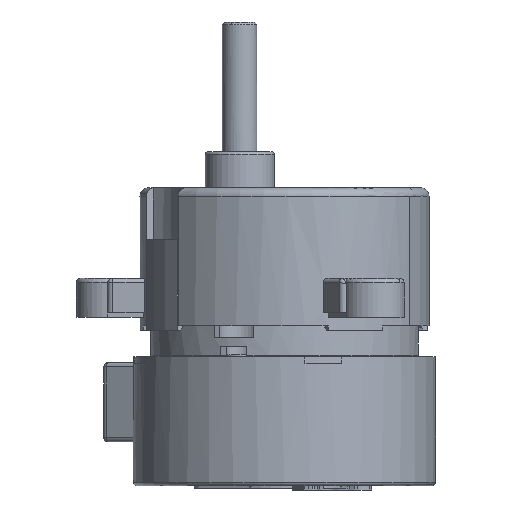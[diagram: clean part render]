
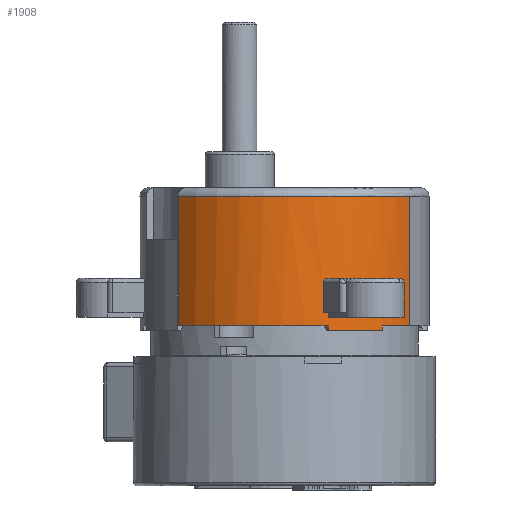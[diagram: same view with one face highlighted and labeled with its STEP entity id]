
A CAD part, front view. The second image highlights one B-rep face of the part: STEP entity #1908.
In plain terms, the highlighted cylindrical face has radius 16.75 mm (diameter 33.5 mm), a partial arc.
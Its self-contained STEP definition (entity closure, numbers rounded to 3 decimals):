
#710=CARTESIAN_POINT('',(5.062,-15.967,20.933));
#711=VERTEX_POINT('',#710);
#720=CARTESIAN_POINT('',(-12.332,-11.335,20.933));
#721=VERTEX_POINT('',#720);
#722=CARTESIAN_POINT('',(0.,-0.,20.933));
#723=DIRECTION('',(-0.,-0.,1.));
#724=DIRECTION('',(-1.,0.,0.));
#725=AXIS2_PLACEMENT_3D('',#722,#723,#724);
#726=CIRCLE('',#725,16.75);
#727=EDGE_CURVE('',#721,#711,#726,.T.);
#876=CARTESIAN_POINT('',(-12.332,-11.335,35.933));
#877=VERTEX_POINT('',#876);
#900=CARTESIAN_POINT('',(14.506,-8.375,35.933));
#901=VERTEX_POINT('',#900);
#902=CARTESIAN_POINT('',(0.,-0.,35.933));
#903=DIRECTION('',(0.,0.,-1.));
#904=DIRECTION('',(-1.,0.,0.));
#905=AXIS2_PLACEMENT_3D('',#902,#903,#904);
#906=CIRCLE('',#905,16.75);
#907=EDGE_CURVE('',#901,#877,#906,.T.);
#1727=CARTESIAN_POINT('',(11.297,-12.367,20.933));
#1728=VERTEX_POINT('',#1727);
#1744=CARTESIAN_POINT('',(14.506,-8.375,20.933));
#1745=VERTEX_POINT('',#1744);
#1753=CARTESIAN_POINT('',(0.,-0.,20.933));
#1754=DIRECTION('',(-0.,-0.,1.));
#1755=DIRECTION('',(-1.,0.,0.));
#1756=AXIS2_PLACEMENT_3D('',#1753,#1754,#1755);
#1757=CIRCLE('',#1756,16.75);
#1758=EDGE_CURVE('',#1728,#1745,#1757,.T.);
#1763=CARTESIAN_POINT('',(0.,-0.,36.933));
#1764=DIRECTION('',(0.,0.,-1.));
#1765=DIRECTION('',(0.866,-0.5,0.));
#1766=AXIS2_PLACEMENT_3D('',#1763,#1764,#1765);
#1767=CYLINDRICAL_SURFACE('',#1766,16.75);
#1768=CARTESIAN_POINT('',(14.506,-8.375,20.933));
#1769=DIRECTION('',(-0.,-0.,1.));
#1770=VECTOR('',#1769,15.);
#1771=LINE('',#1768,#1770);
#1772=EDGE_CURVE('',#1745,#901,#1771,.T.);
#1773=ORIENTED_EDGE('',*,*,#1772,.T.);
#1774=ORIENTED_EDGE('',*,*,#907,.T.);
#1775=CARTESIAN_POINT('',(-12.332,-11.335,20.933));
#1776=DIRECTION('',(-0.,-0.,1.));
#1777=VECTOR('',#1776,15.);
#1778=LINE('',#1775,#1777);
#1779=EDGE_CURVE('',#721,#877,#1778,.T.);
#1780=ORIENTED_EDGE('',*,*,#1779,.F.);
#1781=ORIENTED_EDGE('',*,*,#727,.T.);
#1782=CARTESIAN_POINT('',(5.062,-15.967,20.433));
#1783=VERTEX_POINT('',#1782);
#1784=CARTESIAN_POINT('',(5.062,-15.967,20.433));
#1785=DIRECTION('',(-0.,-0.,1.));
#1786=VECTOR('',#1785,0.5);
#1787=LINE('',#1784,#1786);
#1788=EDGE_CURVE('',#1783,#711,#1787,.T.);
#1789=ORIENTED_EDGE('',*,*,#1788,.F.);
#1790=CARTESIAN_POINT('',(11.297,-12.367,20.433));
#1791=VERTEX_POINT('',#1790);
#1792=CARTESIAN_POINT('',(0.,-0.,20.433));
#1793=DIRECTION('',(0.,0.,-1.));
#1794=DIRECTION('',(-1.,0.,0.));
#1795=AXIS2_PLACEMENT_3D('',#1792,#1793,#1794);
#1796=CIRCLE('',#1795,16.75);
#1797=EDGE_CURVE('',#1791,#1783,#1796,.T.);
#1798=ORIENTED_EDGE('',*,*,#1797,.F.);
#1799=CARTESIAN_POINT('',(11.297,-12.367,20.433));
#1800=DIRECTION('',(-0.,-0.,1.));
#1801=VECTOR('',#1800,0.5);
#1802=LINE('',#1799,#1801);
#1803=EDGE_CURVE('',#1791,#1728,#1802,.T.);
#1804=ORIENTED_EDGE('',*,*,#1803,.T.);
#1805=ORIENTED_EDGE('',*,*,#1758,.T.);
#1806=EDGE_LOOP('',(#1773,#1774,#1780,#1781,#1789,#1798,#1804,#1805));
#1807=FACE_BOUND('',#1806,.T.);
#1808=CARTESIAN_POINT('',(11.297,-12.367,22.433));
#1809=VERTEX_POINT('',#1808);
#1810=CARTESIAN_POINT('',(11.745,-11.943,22.433));
#1811=VERTEX_POINT('',#1810);
#1812=CARTESIAN_POINT('',(0.,-0.,22.433));
#1813=DIRECTION('',(-0.,-0.,1.));
#1814=DIRECTION('',(-1.,0.,0.));
#1815=AXIS2_PLACEMENT_3D('',#1812,#1813,#1814);
#1816=CIRCLE('',#1815,16.75);
#1817=EDGE_CURVE('',#1809,#1811,#1816,.T.);
#1818=ORIENTED_EDGE('',*,*,#1817,.F.);
#1819=CARTESIAN_POINT('',(11.297,-12.367,21.933));
#1820=VERTEX_POINT('',#1819);
#1821=CARTESIAN_POINT('',(11.297,-12.367,22.433));
#1822=DIRECTION('',(0.,0.,-1.));
#1823=VECTOR('',#1822,0.5);
#1824=LINE('',#1821,#1823);
#1825=EDGE_CURVE('',#1809,#1820,#1824,.T.);
#1826=ORIENTED_EDGE('',*,*,#1825,.T.);
#1827=CARTESIAN_POINT('',(5.062,-15.967,21.933));
#1828=VERTEX_POINT('',#1827);
#1829=CARTESIAN_POINT('',(0.,-0.,21.933));
#1830=DIRECTION('',(-0.,-0.,1.));
#1831=DIRECTION('',(-1.,0.,0.));
#1832=AXIS2_PLACEMENT_3D('',#1829,#1830,#1831);
#1833=CIRCLE('',#1832,16.75);
#1834=EDGE_CURVE('',#1828,#1820,#1833,.T.);
#1835=ORIENTED_EDGE('',*,*,#1834,.F.);
#1836=CARTESIAN_POINT('',(5.062,-15.967,22.433));
#1837=VERTEX_POINT('',#1836);
#1838=CARTESIAN_POINT('',(5.062,-15.967,22.433));
#1839=DIRECTION('',(0.,0.,-1.));
#1840=VECTOR('',#1839,0.5);
#1841=LINE('',#1838,#1840);
#1842=EDGE_CURVE('',#1837,#1828,#1841,.T.);
#1843=ORIENTED_EDGE('',*,*,#1842,.F.);
#1844=CARTESIAN_POINT('',(4.47,-16.143,22.433));
#1845=VERTEX_POINT('',#1844);
#1846=CARTESIAN_POINT('',(0.,-0.,22.433));
#1847=DIRECTION('',(-0.,-0.,1.));
#1848=DIRECTION('',(-1.,0.,0.));
#1849=AXIS2_PLACEMENT_3D('',#1846,#1847,#1848);
#1850=CIRCLE('',#1849,16.75);
#1851=EDGE_CURVE('',#1845,#1837,#1850,.T.);
#1852=ORIENTED_EDGE('',*,*,#1851,.F.);
#1853=CARTESIAN_POINT('',(4.47,-16.143,25.933));
#1854=VERTEX_POINT('',#1853);
#1855=CARTESIAN_POINT('',(4.47,-16.143,25.933));
#1856=DIRECTION('',(-0.,-0.,-1.));
#1857=VECTOR('',#1856,3.5);
#1858=LINE('',#1855,#1857);
#1859=EDGE_CURVE('',#1854,#1845,#1858,.T.);
#1860=ORIENTED_EDGE('',*,*,#1859,.F.);
#1861=CARTESIAN_POINT('',(4.964,-15.998,26.433));
#1862=VERTEX_POINT('',#1861);
#1863=CARTESIAN_POINT('',(4.47,-16.143,25.933));
#1864=CARTESIAN_POINT('',(4.47,-16.143,26.));
#1865=CARTESIAN_POINT('',(4.484,-16.139,26.066));
#1866=CARTESIAN_POINT('',(4.509,-16.132,26.127));
#1867=CARTESIAN_POINT('',(4.534,-16.125,26.188));
#1868=CARTESIAN_POINT('',(4.572,-16.114,26.243));
#1869=CARTESIAN_POINT('',(4.618,-16.101,26.289));
#1870=CARTESIAN_POINT('',(4.71,-16.075,26.381));
#1871=CARTESIAN_POINT('',(4.836,-16.037,26.433));
#1872=CARTESIAN_POINT('',(4.964,-15.998,26.433));
#1873=B_SPLINE_CURVE_WITH_KNOTS('',3,(#1863,#1864,#1865,#1866,#1867,#1868,#1869,#1870,#1871,#1872),.UNSPECIFIED.,.F.,.F.,(4,3,3,4),(0.,0.,0.,0.001),.UNSPECIFIED.);
#1874=EDGE_CURVE('',#1854,#1862,#1873,.T.);
#1875=ORIENTED_EDGE('',*,*,#1874,.T.);
#1876=CARTESIAN_POINT('',(11.372,-12.298,26.433));
#1877=VERTEX_POINT('',#1876);
#1878=CARTESIAN_POINT('',(0.,-0.,26.433));
#1879=DIRECTION('',(0.,0.,-1.));
#1880=DIRECTION('',(-1.,0.,0.));
#1881=AXIS2_PLACEMENT_3D('',#1878,#1879,#1880);
#1882=CIRCLE('',#1881,16.75);
#1883=EDGE_CURVE('',#1877,#1862,#1882,.T.);
#1884=ORIENTED_EDGE('',*,*,#1883,.F.);
#1885=CARTESIAN_POINT('',(11.745,-11.943,25.933));
#1886=VERTEX_POINT('',#1885);
#1887=CARTESIAN_POINT('',(11.372,-12.298,26.433));
#1888=CARTESIAN_POINT('',(11.422,-12.252,26.433));
#1889=CARTESIAN_POINT('',(11.469,-12.207,26.421));
#1890=CARTESIAN_POINT('',(11.514,-12.165,26.396));
#1891=CARTESIAN_POINT('',(11.559,-12.122,26.371));
#1892=CARTESIAN_POINT('',(11.6,-12.083,26.335));
#1893=CARTESIAN_POINT('',(11.635,-12.05,26.289));
#1894=CARTESIAN_POINT('',(11.704,-11.983,26.198));
#1895=CARTESIAN_POINT('',(11.745,-11.943,26.067));
#1896=CARTESIAN_POINT('',(11.745,-11.943,25.933));
#1897=B_SPLINE_CURVE_WITH_KNOTS('',3,(#1887,#1888,#1889,#1890,#1891,#1892,#1893,#1894,#1895,#1896),.UNSPECIFIED.,.F.,.F.,(4,3,3,4),(0.,0.,0.,0.001),.UNSPECIFIED.);
#1898=EDGE_CURVE('',#1877,#1886,#1897,.T.);
#1899=ORIENTED_EDGE('',*,*,#1898,.T.);
#1900=CARTESIAN_POINT('',(11.745,-11.943,22.433));
#1901=DIRECTION('',(-0.,-0.,1.));
#1902=VECTOR('',#1901,3.5);
#1903=LINE('',#1900,#1902);
#1904=EDGE_CURVE('',#1811,#1886,#1903,.T.);
#1905=ORIENTED_EDGE('',*,*,#1904,.F.);
#1906=EDGE_LOOP('',(#1818,#1826,#1835,#1843,#1852,#1860,#1875,#1884,#1899,#1905));
#1907=FACE_BOUND('',#1906,.T.);
#1908=ADVANCED_FACE('',(#1807,#1907),#1767,.T.);
